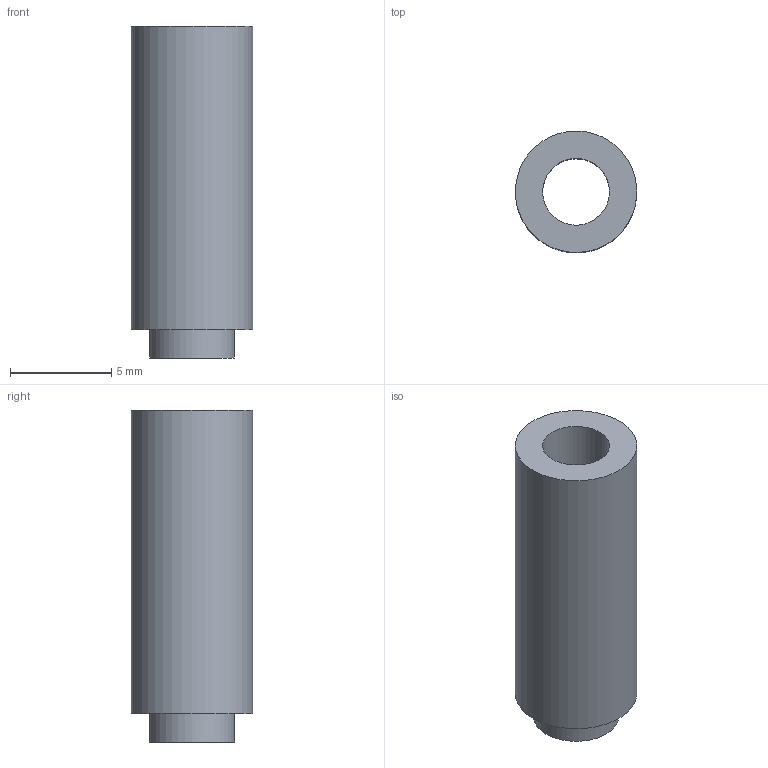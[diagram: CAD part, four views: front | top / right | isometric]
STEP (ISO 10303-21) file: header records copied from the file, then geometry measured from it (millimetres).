
FILE_DESCRIPTION(('FreeCAD Model'),'2;1');
FILE_NAME('Open CASCADE Shape Model','2026-03-20T17:23:30',('Author'),( ''),'Open CASCADE STEP processor 7.8','FreeCAD','Unknown');
FILE_SCHEMA(('AP242_MANAGED_MODEL_BASED_3D_ENGINEERING_MIM_LF. {1 0 10303 442 1 1 4 }'));
Length unit declared in the file: millimetre
Products named in the file (1): 1_transformed
Bounding box: 5.99 x 5.99 x 16.4 mm (x, y, z)
Volume: 305.8 mm3; surface area: 511.9 mm2
Topology: 1 solids, 1 shells, 6 faces, 9 edges, 6 vertices
Faces by surface type: bspline 6
Entity records: 201 total; most frequent: CARTESIAN_POINT 109, ORIENTED_EDGE 18, FACE_BOUND 9, EDGE_LOOP 9, EDGE_CURVE 9, ADVANCED_FACE 6, VERTEX_POINT 6, B_SPLINE_SURFACE_WITH_KNOTS 3
